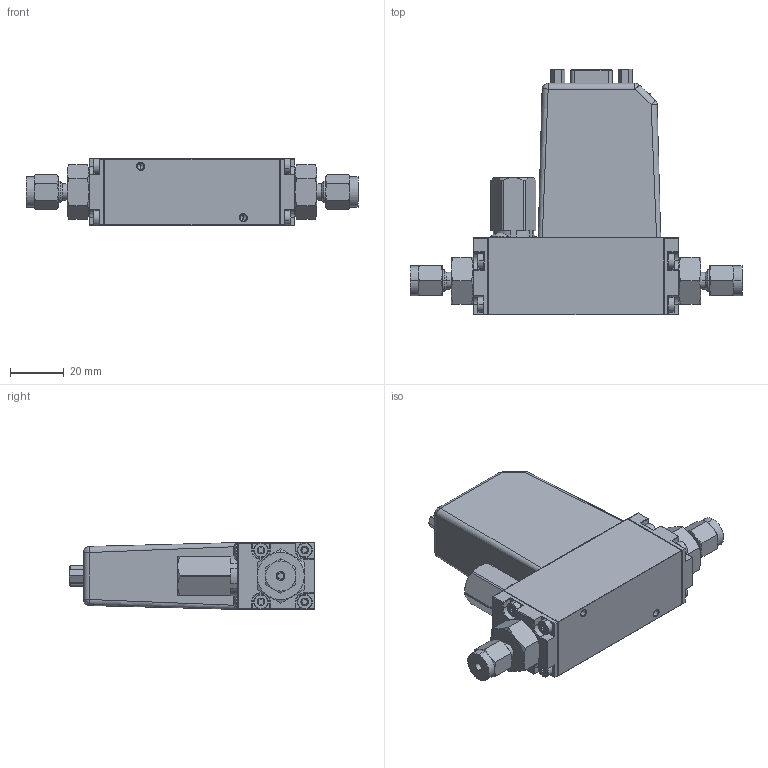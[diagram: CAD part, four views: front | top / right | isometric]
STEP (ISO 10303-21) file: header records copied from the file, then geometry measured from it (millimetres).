
FILE_DESCRIPTION (( 'STEP AP203' ), '1' );
FILE_NAME ('129275-_Publikationsmodell SFC5400_Swagelok-eighthinch.step', '2018-01-04T13:39:02', ( 'IT' ), ( '' ), 'SwSTEP 2.0', 'SolidWorks 2017', '' );
FILE_SCHEMA (( 'CONFIG_CONTROL_DESIGN' ));
Length unit declared in the file: millimetre
Products named in the file (8): swa_SS-200-1-6ST_00; 129252_SFC5400_Swagelok-eighthinch; swa_SS-200-1-6ST-gekürzt_00; 129252_SFC5400_Swagelok-eighthinch_gek〉zt; 05_Zylinderschraube mit Innensechsrund ISO 14580_M03x08; 129275-_Publikationsmodell SFC5400_Swagelok-eighthinch; 129048; M03-0037_00
Assembly tree (15 placements, depth 3):
  129275-_Publikationsmodell SFC5400_Swagelok-eighthinch
    129048
    129252_SFC5400_Swagelok-eighthinch
      M03-0037_00
      swa_SS-200-1-6ST_00
    129252_SFC5400_Swagelok-eighthinch_gek〉zt
      M03-0037_00
      swa_SS-200-1-6ST-gekürzt_00
    05_Zylinderschraube mit Innensechsrund ISO 14580_M03x08  x8
Bounding box: 123.14 x 91.2 x 24.8 mm (x, y, z)
Volume: 121270.5 mm3; surface area: 29435.4 mm2
Topology: 13 solids, 15 shells, 1455 faces, 3696 edges, 2305 vertices
Faces by surface type: plane 840, cylinder 330, cone 220, torus 41, bspline 20, sphere 4
Entity records: 36007 total; most frequent: CARTESIAN_POINT 7338, ORIENTED_EDGE 5840, DIRECTION 5570, EDGE_CURVE 2920, VECTOR 2196, LINE 2196, VERTEX_POINT 1844, AXIS2_PLACEMENT_3D 1687
